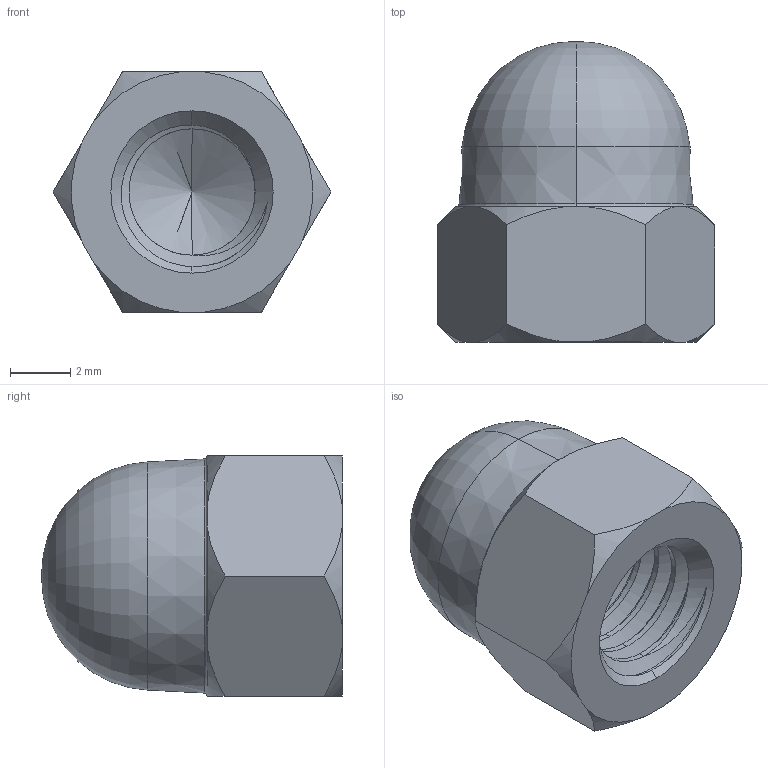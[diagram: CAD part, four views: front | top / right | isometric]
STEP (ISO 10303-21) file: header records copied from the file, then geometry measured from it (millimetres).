
FILE_DESCRIPTION (( 'STEP AP203' ), '1' );
FILE_NAME ('TAN_BAU_M5.STEP', '2026-08-24T08:29:02', ( '' ), ( '' ), 'SwSTEP 2.0', 'SolidWorks 2020', '' );
FILE_SCHEMA (( 'CONFIG_CONTROL_DESIGN' ));
Length unit declared in the file: millimetre
Products named in the file (1): TAN_BAU_M5
Bounding box: 9.24 x 10 x 8 mm (x, y, z)
Volume: 316.4 mm3; surface area: 470.5 mm2
Topology: 1 solids, 1 shells, 51 faces, 135 edges, 86 vertices
Faces by surface type: cone 18, cylinder 16, plane 10, torus 4, bspline 3
Entity records: 2985 total; most frequent: CARTESIAN_POINT 1796, ORIENTED_EDGE 266, DIRECTION 197, EDGE_CURVE 133, VERTEX_POINT 86, AXIS2_PLACEMENT_3D 78, EDGE_LOOP 53, ADVANCED_FACE 51
